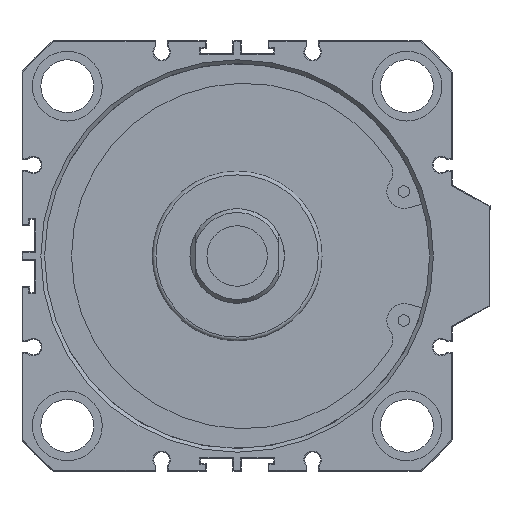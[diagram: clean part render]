
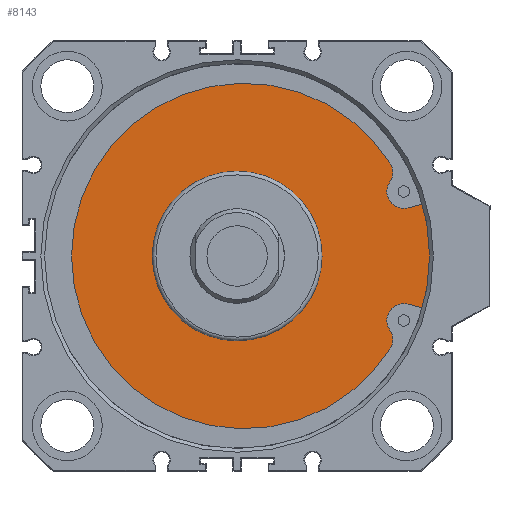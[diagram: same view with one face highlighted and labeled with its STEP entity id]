
A CAD part, front view. The second image highlights one B-rep face of the part: STEP entity #8143.
In plain terms, the highlighted planar face has unit normal (0, -1, 0).
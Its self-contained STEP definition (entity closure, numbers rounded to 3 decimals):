
#124=LINE('',#10845,#712);
#125=LINE('',#10858,#713);
#712=VECTOR('',#9147,1000.);
#713=VECTOR('',#9158,1000.);
#1417=ORIENTED_EDGE('',*,*,#2968,.T.);
#1418=ORIENTED_EDGE('',*,*,#2969,.T.);
#1419=ORIENTED_EDGE('',*,*,#2970,.T.);
#1420=ORIENTED_EDGE('',*,*,#2971,.T.);
#1421=ORIENTED_EDGE('',*,*,#2972,.T.);
#1422=ORIENTED_EDGE('',*,*,#2973,.T.);
#1423=ORIENTED_EDGE('',*,*,#2974,.T.);
#1424=ORIENTED_EDGE('',*,*,#2975,.F.);
#1425=ORIENTED_EDGE('',*,*,#2965,.F.);
#2965=EDGE_CURVE('',#3746,#3746,#4205,.T.);
#2968=EDGE_CURVE('',#3749,#3750,#124,.T.);
#2969=EDGE_CURVE('',#3750,#3751,#4208,.T.);
#2970=EDGE_CURVE('',#3751,#3752,#4209,.T.);
#2971=EDGE_CURVE('',#3752,#3753,#4210,.T.);
#2972=EDGE_CURVE('',#3753,#3754,#4211,.T.);
#2973=EDGE_CURVE('',#3754,#3755,#4212,.T.);
#2974=EDGE_CURVE('',#3755,#3756,#125,.T.);
#2975=EDGE_CURVE('',#3749,#3756,#4213,.T.);
#3746=VERTEX_POINT('',#10837);
#3749=VERTEX_POINT('',#10846);
#3750=VERTEX_POINT('',#10847);
#3751=VERTEX_POINT('',#10849);
#3752=VERTEX_POINT('',#10851);
#3753=VERTEX_POINT('',#10853);
#3754=VERTEX_POINT('',#10855);
#3755=VERTEX_POINT('',#10857);
#3756=VERTEX_POINT('',#10859);
#4205=CIRCLE('',#8539,22.5);
#4208=CIRCLE('',#8545,4.5);
#4209=CIRCLE('',#8546,4.5);
#4210=CIRCLE('',#8547,45.77);
#4211=CIRCLE('',#8548,4.5);
#4212=CIRCLE('',#8549,4.5);
#4213=CIRCLE('',#8550,53.);
#4388=EDGE_LOOP('',(#1417,#1418,#1419,#1420,#1421,#1422,#1423,#1424));
#4389=EDGE_LOOP('',(#1425));
#4826=FACE_BOUND('',#4388,.T.);
#4827=FACE_BOUND('',#4389,.T.);
#5250=PLANE('',#8544);
#8143=ADVANCED_FACE('',(#4826,#4827),#5250,.T.);
#8539=AXIS2_PLACEMENT_3D('',#10836,#9135,#9136);
#8544=AXIS2_PLACEMENT_3D('',#10844,#9145,#9146);
#8545=AXIS2_PLACEMENT_3D('',#10848,#9148,#9149);
#8546=AXIS2_PLACEMENT_3D('',#10850,#9150,#9151);
#8547=AXIS2_PLACEMENT_3D('',#10852,#9152,#9153);
#8548=AXIS2_PLACEMENT_3D('',#10854,#9154,#9155);
#8549=AXIS2_PLACEMENT_3D('',#10856,#9156,#9157);
#8550=AXIS2_PLACEMENT_3D('',#10860,#9159,#9160);
#9135=DIRECTION('',(0.,-1.,0.));
#9136=DIRECTION('',(1.,0.,0.));
#9145=DIRECTION('',(0.,-1.,0.));
#9146=DIRECTION('',(1.,0.,0.));
#9147=DIRECTION('',(-0.966,0.,-0.259));
#9148=DIRECTION('',(0.,1.,0.));
#9149=DIRECTION('',(1.,0.,0.));
#9150=DIRECTION('',(0.,-1.,0.));
#9151=DIRECTION('',(-1.,0.,0.));
#9152=DIRECTION('',(0.,-1.,0.));
#9153=DIRECTION('',(1.,0.,0.));
#9154=DIRECTION('',(0.,-1.,0.));
#9155=DIRECTION('',(-1.,0.,0.));
#9156=DIRECTION('',(0.,1.,0.));
#9157=DIRECTION('',(1.,0.,0.));
#9158=DIRECTION('',(0.966,0.,-0.259));
#9159=DIRECTION('',(0.,1.,0.));
#9160=DIRECTION('',(-1.,0.,0.));
#10836=CARTESIAN_POINT('',(0.,8.,0.));
#10837=CARTESIAN_POINT('',(22.5,8.,0.));
#10844=CARTESIAN_POINT('',(0.,8.,-53.));
#10845=CARTESIAN_POINT('',(51.039,8.,14.283));
#10846=CARTESIAN_POINT('',(51.039,8.,14.283));
#10847=CARTESIAN_POINT('',(45.35,8.,12.758));
#10848=CARTESIAN_POINT('',(44.185,8.,17.105));
#10849=CARTESIAN_POINT('',(40.45,8.,19.615));
#10850=CARTESIAN_POINT('',(36.73,8.,22.147));
#10851=CARTESIAN_POINT('',(40.642,8.,24.372));
#10852=CARTESIAN_POINT('',(1.9,8.,0.));
#10853=CARTESIAN_POINT('',(40.642,8.,-24.372));
#10854=CARTESIAN_POINT('',(36.73,8.,-22.147));
#10855=CARTESIAN_POINT('',(40.45,8.,-19.615));
#10856=CARTESIAN_POINT('',(44.185,8.,-17.105));
#10857=CARTESIAN_POINT('',(45.35,8.,-12.758));
#10858=CARTESIAN_POINT('',(45.35,8.,-12.758));
#10859=CARTESIAN_POINT('',(51.039,8.,-14.283));
#10860=CARTESIAN_POINT('',(0.,8.,0.));
